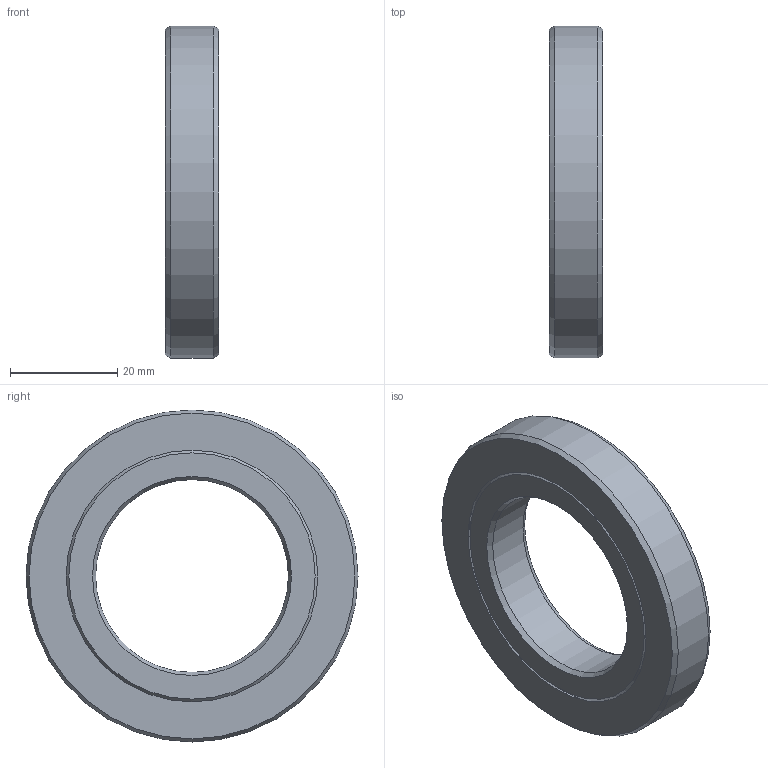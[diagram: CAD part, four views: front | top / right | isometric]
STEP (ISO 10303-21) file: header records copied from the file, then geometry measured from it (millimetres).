
FILE_DESCRIPTION(/* description */ (''),/* implementation_level */ '2;1');
FILE_NAME(/* name */ '301829 SA 36x62x10.stp',/* time_stamp */ '2016-12-16T15:23:34+01:00',/* author */ (''),/* organization */ (''),/* preprocessor_version */ 'ST-DEVELOPER v15',/* originating_system */ 'SIEMENS PLM Software NX 8.5',/* authorisation */ '');
FILE_SCHEMA (('CONFIG_CONTROL_DESIGN'));
Length unit declared in the file: millimetre
Products named in the file (1): ATE0000144_01
Bounding box: 10 x 62 x 62 mm (x, y, z)
Volume: 18939.6 mm3; surface area: 10622.2 mm2
Topology: 2 solids, 2 shells, 18 faces, 37 edges, 23 vertices
Faces by surface type: cone 10, plane 5, cylinder 3
Full cylindrical faces by diameter (mm): 36 x1, 62 x1
Entity records: 492 total; most frequent: DIRECTION 76, CARTESIAN_POINT 74, ORIENTED_EDGE 46, AXIS2_PLACEMENT_3D 38, EDGE_LOOP 33, FACE_BOUND 30, EDGE_CURVE 23, VERTEX_POINT 20
